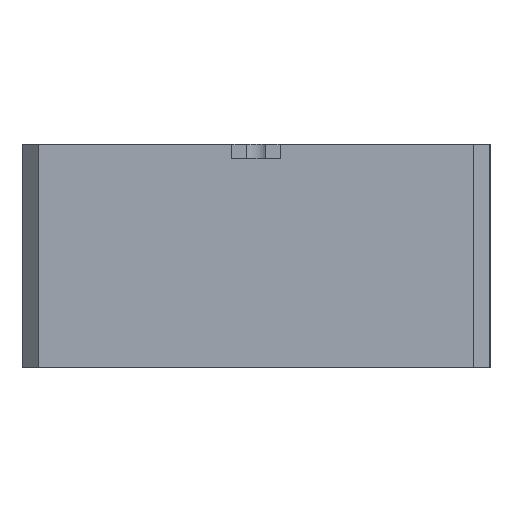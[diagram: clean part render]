
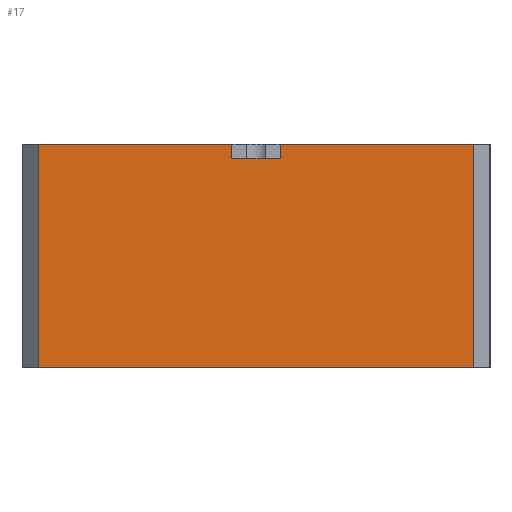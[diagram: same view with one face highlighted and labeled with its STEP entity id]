
A CAD part, left-side view. The second image highlights one B-rep face of the part: STEP entity #17.
In plain terms, the highlighted planar face has unit normal (-1, 0, 0).
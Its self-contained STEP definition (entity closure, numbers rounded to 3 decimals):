
#17 = ADVANCED_FACE('',(#18),#32,.F.);
#18 = FACE_BOUND('',#19,.F.);
#19 = EDGE_LOOP('',(#20,#55,#83,#111,#139,#162,#188,#214));
#20 = ORIENTED_EDGE('',*,*,#21,.F.);
#21 = EDGE_CURVE('',#22,#24,#26,.T.);
#22 = VERTEX_POINT('',#23);
#23 = CARTESIAN_POINT('',(-31.925,-13.525,13.85));
#24 = VERTEX_POINT('',#25);
#25 = CARTESIAN_POINT('',(-31.925,-1.5,13.85));
#26 = SURFACE_CURVE('',#27,(#31,#43),.PCURVE_S1.);
#27 = LINE('',#28,#29);
#28 = CARTESIAN_POINT('',(-31.925,-14.525,13.85));
#29 = VECTOR('',#30,1.);
#30 = DIRECTION('',(-0.,1.,0.));
#31 = PCURVE('',#32,#37);
#32 = PLANE('',#33);
#33 = AXIS2_PLACEMENT_3D('',#34,#35,#36);
#34 = CARTESIAN_POINT('',(-31.925,-14.525,0.));
#35 = DIRECTION('',(1.,0.,-0.));
#36 = DIRECTION('',(0.,0.,1.));
#37 = DEFINITIONAL_REPRESENTATION('',(#38),#42);
#38 = LINE('',#39,#40);
#39 = CARTESIAN_POINT('',(13.85,0.));
#40 = VECTOR('',#41,1.);
#41 = DIRECTION('',(0.,-1.));
#42 = ( GEOMETRIC_REPRESENTATION_CONTEXT(2) 
PARAMETRIC_REPRESENTATION_CONTEXT() REPRESENTATION_CONTEXT('2D SPACE',''
  ) );
#43 = PCURVE('',#44,#49);
#44 = PLANE('',#45);
#45 = AXIS2_PLACEMENT_3D('',#46,#47,#48);
#46 = CARTESIAN_POINT('',(-31.925,-14.525,13.85));
#47 = DIRECTION('',(0.,0.,1.));
#48 = DIRECTION('',(1.,0.,-0.));
#49 = DEFINITIONAL_REPRESENTATION('',(#50),#54);
#50 = LINE('',#51,#52);
#51 = CARTESIAN_POINT('',(0.,0.));
#52 = VECTOR('',#53,1.);
#53 = DIRECTION('',(0.,1.));
#54 = ( GEOMETRIC_REPRESENTATION_CONTEXT(2) 
PARAMETRIC_REPRESENTATION_CONTEXT() REPRESENTATION_CONTEXT('2D SPACE',''
  ) );
#55 = ORIENTED_EDGE('',*,*,#56,.F.);
#56 = EDGE_CURVE('',#57,#22,#59,.T.);
#57 = VERTEX_POINT('',#58);
#58 = CARTESIAN_POINT('',(-31.925,-13.525,0.));
#59 = SURFACE_CURVE('',#60,(#64,#71),.PCURVE_S1.);
#60 = LINE('',#61,#62);
#61 = CARTESIAN_POINT('',(-31.925,-13.525,0.));
#62 = VECTOR('',#63,1.);
#63 = DIRECTION('',(0.,0.,1.));
#64 = PCURVE('',#32,#65);
#65 = DEFINITIONAL_REPRESENTATION('',(#66),#70);
#66 = LINE('',#67,#68);
#67 = CARTESIAN_POINT('',(0.,-1.));
#68 = VECTOR('',#69,1.);
#69 = DIRECTION('',(1.,0.));
#70 = ( GEOMETRIC_REPRESENTATION_CONTEXT(2) 
PARAMETRIC_REPRESENTATION_CONTEXT() REPRESENTATION_CONTEXT('2D SPACE',''
  ) );
#71 = PCURVE('',#72,#77);
#72 = PLANE('',#73);
#73 = AXIS2_PLACEMENT_3D('',#74,#75,#76);
#74 = CARTESIAN_POINT('',(-31.425,-14.025,0.));
#75 = DIRECTION('',(-0.707,-0.707,0.));
#76 = DIRECTION('',(-0.,-0.,-1.));
#77 = DEFINITIONAL_REPRESENTATION('',(#78),#82);
#78 = LINE('',#79,#80);
#79 = CARTESIAN_POINT('',(-0.,-0.707));
#80 = VECTOR('',#81,1.);
#81 = DIRECTION('',(-1.,0.));
#82 = ( GEOMETRIC_REPRESENTATION_CONTEXT(2) 
PARAMETRIC_REPRESENTATION_CONTEXT() REPRESENTATION_CONTEXT('2D SPACE',''
  ) );
#83 = ORIENTED_EDGE('',*,*,#84,.T.);
#84 = EDGE_CURVE('',#57,#85,#87,.T.);
#85 = VERTEX_POINT('',#86);
#86 = CARTESIAN_POINT('',(-31.925,13.525,0.));
#87 = SURFACE_CURVE('',#88,(#92,#99),.PCURVE_S1.);
#88 = LINE('',#89,#90);
#89 = CARTESIAN_POINT('',(-31.925,-14.525,0.));
#90 = VECTOR('',#91,1.);
#91 = DIRECTION('',(-0.,1.,0.));
#92 = PCURVE('',#32,#93);
#93 = DEFINITIONAL_REPRESENTATION('',(#94),#98);
#94 = LINE('',#95,#96);
#95 = CARTESIAN_POINT('',(0.,0.));
#96 = VECTOR('',#97,1.);
#97 = DIRECTION('',(0.,-1.));
#98 = ( GEOMETRIC_REPRESENTATION_CONTEXT(2) 
PARAMETRIC_REPRESENTATION_CONTEXT() REPRESENTATION_CONTEXT('2D SPACE',''
  ) );
#99 = PCURVE('',#100,#105);
#100 = PLANE('',#101);
#101 = AXIS2_PLACEMENT_3D('',#102,#103,#104);
#102 = CARTESIAN_POINT('',(-31.925,-14.525,0.));
#103 = DIRECTION('',(0.,0.,1.));
#104 = DIRECTION('',(1.,0.,-0.));
#105 = DEFINITIONAL_REPRESENTATION('',(#106),#110);
#106 = LINE('',#107,#108);
#107 = CARTESIAN_POINT('',(0.,0.));
#108 = VECTOR('',#109,1.);
#109 = DIRECTION('',(0.,1.));
#110 = ( GEOMETRIC_REPRESENTATION_CONTEXT(2) 
PARAMETRIC_REPRESENTATION_CONTEXT() REPRESENTATION_CONTEXT('2D SPACE',''
  ) );
#111 = ORIENTED_EDGE('',*,*,#112,.T.);
#112 = EDGE_CURVE('',#85,#113,#115,.T.);
#113 = VERTEX_POINT('',#114);
#114 = CARTESIAN_POINT('',(-31.925,13.525,13.85));
#115 = SURFACE_CURVE('',#116,(#120,#127),.PCURVE_S1.);
#116 = LINE('',#117,#118);
#117 = CARTESIAN_POINT('',(-31.925,13.525,0.));
#118 = VECTOR('',#119,1.);
#119 = DIRECTION('',(0.,0.,1.));
#120 = PCURVE('',#32,#121);
#121 = DEFINITIONAL_REPRESENTATION('',(#122),#126);
#122 = LINE('',#123,#124);
#123 = CARTESIAN_POINT('',(0.,-28.05));
#124 = VECTOR('',#125,1.);
#125 = DIRECTION('',(1.,0.));
#126 = ( GEOMETRIC_REPRESENTATION_CONTEXT(2) 
PARAMETRIC_REPRESENTATION_CONTEXT() REPRESENTATION_CONTEXT('2D SPACE',''
  ) );
#127 = PCURVE('',#128,#133);
#128 = PLANE('',#129);
#129 = AXIS2_PLACEMENT_3D('',#130,#131,#132);
#130 = CARTESIAN_POINT('',(-31.425,14.025,0.));
#131 = DIRECTION('',(0.707,-0.707,0.));
#132 = DIRECTION('',(-0.,-0.,-1.));
#133 = DEFINITIONAL_REPRESENTATION('',(#134),#138);
#134 = LINE('',#135,#136);
#135 = CARTESIAN_POINT('',(-0.,-0.707));
#136 = VECTOR('',#137,1.);
#137 = DIRECTION('',(-1.,0.));
#138 = ( GEOMETRIC_REPRESENTATION_CONTEXT(2) 
PARAMETRIC_REPRESENTATION_CONTEXT() REPRESENTATION_CONTEXT('2D SPACE',''
  ) );
#139 = ORIENTED_EDGE('',*,*,#140,.F.);
#140 = EDGE_CURVE('',#141,#113,#143,.T.);
#141 = VERTEX_POINT('',#142);
#142 = CARTESIAN_POINT('',(-31.925,1.5,13.85));
#143 = SURFACE_CURVE('',#144,(#148,#155),.PCURVE_S1.);
#144 = LINE('',#145,#146);
#145 = CARTESIAN_POINT('',(-31.925,-14.525,13.85));
#146 = VECTOR('',#147,1.);
#147 = DIRECTION('',(-0.,1.,0.));
#148 = PCURVE('',#32,#149);
#149 = DEFINITIONAL_REPRESENTATION('',(#150),#154);
#150 = LINE('',#151,#152);
#151 = CARTESIAN_POINT('',(13.85,0.));
#152 = VECTOR('',#153,1.);
#153 = DIRECTION('',(0.,-1.));
#154 = ( GEOMETRIC_REPRESENTATION_CONTEXT(2) 
PARAMETRIC_REPRESENTATION_CONTEXT() REPRESENTATION_CONTEXT('2D SPACE',''
  ) );
#155 = PCURVE('',#44,#156);
#156 = DEFINITIONAL_REPRESENTATION('',(#157),#161);
#157 = LINE('',#158,#159);
#158 = CARTESIAN_POINT('',(0.,0.));
#159 = VECTOR('',#160,1.);
#160 = DIRECTION('',(0.,1.));
#161 = ( GEOMETRIC_REPRESENTATION_CONTEXT(2) 
PARAMETRIC_REPRESENTATION_CONTEXT() REPRESENTATION_CONTEXT('2D SPACE',''
  ) );
#162 = ORIENTED_EDGE('',*,*,#163,.F.);
#163 = EDGE_CURVE('',#164,#141,#166,.T.);
#164 = VERTEX_POINT('',#165);
#165 = CARTESIAN_POINT('',(-31.925,1.5,12.95));
#166 = SURFACE_CURVE('',#167,(#171,#177),.PCURVE_S1.);
#167 = LINE('',#168,#169);
#168 = CARTESIAN_POINT('',(-31.925,1.5,6.475));
#169 = VECTOR('',#170,1.);
#170 = DIRECTION('',(0.,0.,1.));
#171 = PCURVE('',#32,#172);
#172 = DEFINITIONAL_REPRESENTATION('',(#173),#176);
#173 = B_SPLINE_CURVE_WITH_KNOTS('',1,(#174,#175),.UNSPECIFIED.,.F.,.F.,
  (2,2),(6.475,7.375),.PIECEWISE_BEZIER_KNOTS.);
#174 = CARTESIAN_POINT('',(12.95,-16.025));
#175 = CARTESIAN_POINT('',(13.85,-16.025));
#176 = ( GEOMETRIC_REPRESENTATION_CONTEXT(2) 
PARAMETRIC_REPRESENTATION_CONTEXT() REPRESENTATION_CONTEXT('2D SPACE',''
  ) );
#177 = PCURVE('',#178,#183);
#178 = PLANE('',#179);
#179 = AXIS2_PLACEMENT_3D('',#180,#181,#182);
#180 = CARTESIAN_POINT('',(-32.125,1.5,12.95));
#181 = DIRECTION('',(-0.,1.,0.));
#182 = DIRECTION('',(0.,0.,1.));
#183 = DEFINITIONAL_REPRESENTATION('',(#184),#187);
#184 = B_SPLINE_CURVE_WITH_KNOTS('',1,(#185,#186),.UNSPECIFIED.,.F.,.F.,
  (2,2),(6.475,7.375),.PIECEWISE_BEZIER_KNOTS.);
#185 = CARTESIAN_POINT('',(0.,0.2));
#186 = CARTESIAN_POINT('',(0.9,0.2));
#187 = ( GEOMETRIC_REPRESENTATION_CONTEXT(2) 
PARAMETRIC_REPRESENTATION_CONTEXT() REPRESENTATION_CONTEXT('2D SPACE',''
  ) );
#188 = ORIENTED_EDGE('',*,*,#189,.T.);
#189 = EDGE_CURVE('',#164,#190,#192,.T.);
#190 = VERTEX_POINT('',#191);
#191 = CARTESIAN_POINT('',(-31.925,-1.5,12.95));
#192 = SURFACE_CURVE('',#193,(#197,#203),.PCURVE_S1.);
#193 = LINE('',#194,#195);
#194 = CARTESIAN_POINT('',(-31.925,-8.013,12.95));
#195 = VECTOR('',#196,1.);
#196 = DIRECTION('',(0.,-1.,0.));
#197 = PCURVE('',#32,#198);
#198 = DEFINITIONAL_REPRESENTATION('',(#199),#202);
#199 = B_SPLINE_CURVE_WITH_KNOTS('',1,(#200,#201),.UNSPECIFIED.,.F.,.F.,
  (2,2),(-9.513,-6.513),.PIECEWISE_BEZIER_KNOTS.);
#200 = CARTESIAN_POINT('',(12.95,-16.025));
#201 = CARTESIAN_POINT('',(12.95,-13.025));
#202 = ( GEOMETRIC_REPRESENTATION_CONTEXT(2) 
PARAMETRIC_REPRESENTATION_CONTEXT() REPRESENTATION_CONTEXT('2D SPACE',''
  ) );
#203 = PCURVE('',#204,#209);
#204 = PLANE('',#205);
#205 = AXIS2_PLACEMENT_3D('',#206,#207,#208);
#206 = CARTESIAN_POINT('',(-32.125,-1.5,12.95));
#207 = DIRECTION('',(0.,0.,1.));
#208 = DIRECTION('',(1.,0.,-0.));
#209 = DEFINITIONAL_REPRESENTATION('',(#210),#213);
#210 = B_SPLINE_CURVE_WITH_KNOTS('',1,(#211,#212),.UNSPECIFIED.,.F.,.F.,
  (2,2),(-9.513,-6.513),.PIECEWISE_BEZIER_KNOTS.);
#211 = CARTESIAN_POINT('',(0.2,3.));
#212 = CARTESIAN_POINT('',(0.2,0.));
#213 = ( GEOMETRIC_REPRESENTATION_CONTEXT(2) 
PARAMETRIC_REPRESENTATION_CONTEXT() REPRESENTATION_CONTEXT('2D SPACE',''
  ) );
#214 = ORIENTED_EDGE('',*,*,#215,.T.);
#215 = EDGE_CURVE('',#190,#24,#216,.T.);
#216 = SURFACE_CURVE('',#217,(#221,#227),.PCURVE_S1.);
#217 = LINE('',#218,#219);
#218 = CARTESIAN_POINT('',(-31.925,-1.5,6.475));
#219 = VECTOR('',#220,1.);
#220 = DIRECTION('',(0.,0.,1.));
#221 = PCURVE('',#32,#222);
#222 = DEFINITIONAL_REPRESENTATION('',(#223),#226);
#223 = B_SPLINE_CURVE_WITH_KNOTS('',1,(#224,#225),.UNSPECIFIED.,.F.,.F.,
  (2,2),(6.475,7.375),.PIECEWISE_BEZIER_KNOTS.);
#224 = CARTESIAN_POINT('',(12.95,-13.025));
#225 = CARTESIAN_POINT('',(13.85,-13.025));
#226 = ( GEOMETRIC_REPRESENTATION_CONTEXT(2) 
PARAMETRIC_REPRESENTATION_CONTEXT() REPRESENTATION_CONTEXT('2D SPACE',''
  ) );
#227 = PCURVE('',#228,#233);
#228 = PLANE('',#229);
#229 = AXIS2_PLACEMENT_3D('',#230,#231,#232);
#230 = CARTESIAN_POINT('',(-32.125,-1.5,12.95));
#231 = DIRECTION('',(-0.,1.,0.));
#232 = DIRECTION('',(0.,0.,1.));
#233 = DEFINITIONAL_REPRESENTATION('',(#234),#237);
#234 = B_SPLINE_CURVE_WITH_KNOTS('',1,(#235,#236),.UNSPECIFIED.,.F.,.F.,
  (2,2),(6.475,7.375),.PIECEWISE_BEZIER_KNOTS.);
#235 = CARTESIAN_POINT('',(0.,0.2));
#236 = CARTESIAN_POINT('',(0.9,0.2));
#237 = ( GEOMETRIC_REPRESENTATION_CONTEXT(2) 
PARAMETRIC_REPRESENTATION_CONTEXT() REPRESENTATION_CONTEXT('2D SPACE',''
  ) );
